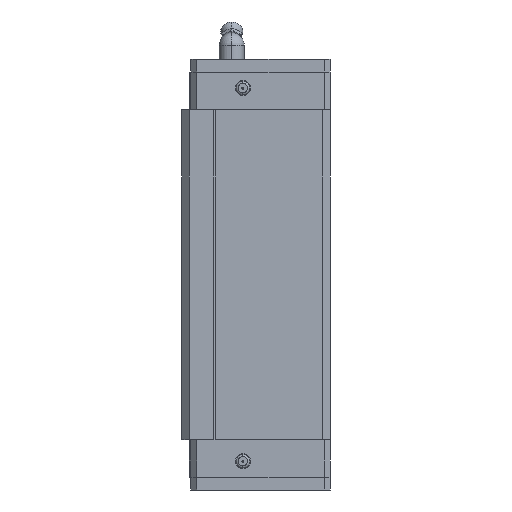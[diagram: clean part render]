
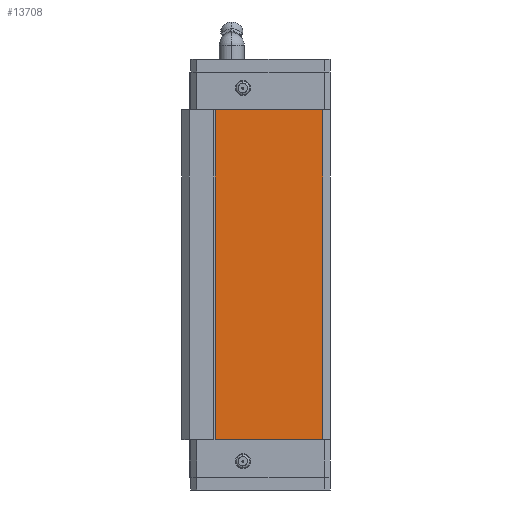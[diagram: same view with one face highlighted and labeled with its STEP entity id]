
A CAD part, left-side view. The second image highlights one B-rep face of the part: STEP entity #13708.
In plain terms, the highlighted planar face has unit normal (-1, 0, 0).
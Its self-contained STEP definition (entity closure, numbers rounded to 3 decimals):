
#176 = VECTOR ( 'NONE', #2813, 1000. ) ;
#232 = DIRECTION ( 'NONE',  ( 0., 1., 0. ) ) ;
#372 = EDGE_CURVE ( 'NONE', #4168, #2008, #4169, .T. ) ;
#658 = CARTESIAN_POINT ( 'NONE',  ( -34.459, 36.859, -52.9 ) ) ;
#1857 = CARTESIAN_POINT ( 'NONE',  ( -34.459, 36.859, 52.9 ) ) ;
#2008 = VERTEX_POINT ( 'NONE', #658 ) ;
#2148 = CARTESIAN_POINT ( 'NONE',  ( -34.459, 36.859, -52.9 ) ) ;
#2813 = DIRECTION ( 'NONE',  ( 0., -1., 0. ) ) ;
#2905 = EDGE_CURVE ( 'NONE', #12097, #7025, #9712, .T. ) ;
#3301 = DIRECTION ( 'NONE',  ( 0., -1., 0. ) ) ;
#3862 = CARTESIAN_POINT ( 'NONE',  ( -34.459, 2.38, 52.9 ) ) ;
#3908 = DIRECTION ( 'NONE',  ( 0., 0., -1. ) ) ;
#3909 = VECTOR ( 'NONE', #3908, 1000. ) ;
#4168 = VERTEX_POINT ( 'NONE', #9753 ) ;
#4169 = LINE ( 'NONE', #1857, #12897 ) ;
#5248 = CARTESIAN_POINT ( 'NONE',  ( -34.459, 2.38, -52.9 ) ) ;
#5710 = PLANE ( 'NONE',  #6958 ) ;
#6788 = DIRECTION ( 'NONE',  ( 1., 0., 0. ) ) ;
#6958 = AXIS2_PLACEMENT_3D ( 'NONE', #13366, #6788, #232 ) ;
#7025 = VERTEX_POINT ( 'NONE', #5248 ) ;
#7504 = ORIENTED_EDGE ( 'NONE', *, *, #8228, .F. ) ;
#8228 = EDGE_CURVE ( 'NONE', #4168, #12097, #11822, .T. ) ;
#8297 = ORIENTED_EDGE ( 'NONE', *, *, #372, .T. ) ;
#8646 = VECTOR ( 'NONE', #3301, 1000. ) ;
#9712 = LINE ( 'NONE', #3862, #3909 ) ;
#9753 = CARTESIAN_POINT ( 'NONE',  ( -34.459, 36.859, 52.9 ) ) ;
#10429 = EDGE_LOOP ( 'NONE', ( #8297, #12000, #11290, #7504 ) ) ;
#10814 = CARTESIAN_POINT ( 'NONE',  ( -34.459, 2.38, 52.9 ) ) ;
#10937 = EDGE_CURVE ( 'NONE', #2008, #7025, #11558, .T. ) ;
#11290 = ORIENTED_EDGE ( 'NONE', *, *, #2905, .F. ) ;
#11361 = FACE_OUTER_BOUND ( 'NONE', #10429, .T. ) ;
#11538 = CARTESIAN_POINT ( 'NONE',  ( -34.459, 36.859, 52.9 ) ) ;
#11558 = LINE ( 'NONE', #2148, #8646 ) ;
#11822 = LINE ( 'NONE', #11538, #176 ) ;
#12000 = ORIENTED_EDGE ( 'NONE', *, *, #10937, .T. ) ;
#12097 = VERTEX_POINT ( 'NONE', #10814 ) ;
#12860 = DIRECTION ( 'NONE',  ( 0., 0., -1. ) ) ;
#12897 = VECTOR ( 'NONE', #12860, 1000. ) ;
#13366 = CARTESIAN_POINT ( 'NONE',  ( -34.459, 36.859, 52.9 ) ) ;
#13708 = ADVANCED_FACE ( 'NONE', ( #11361 ), #5710, .F. ) ;
